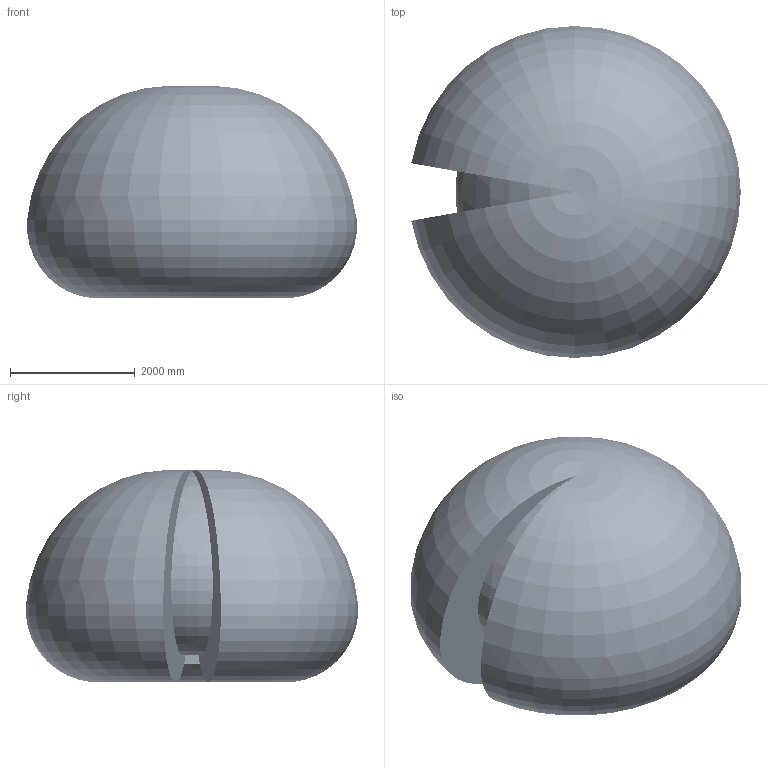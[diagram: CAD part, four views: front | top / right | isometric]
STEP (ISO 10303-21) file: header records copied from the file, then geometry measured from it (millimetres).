
FILE_DESCRIPTION (( 'STEP AP214' ), '1' );
FILE_NAME ('IRB6710_210kg-265_OC_00_ASM_CAD.STEP', '2023-05-10T09:21:43', ( '' ), ( '' ), 'SwSTEP 2.0', 'SolidWorks 2020', '' );
FILE_SCHEMA (( 'AUTOMOTIVE_DESIGN' ));
Length unit declared in the file: millimetre
Products named in the file (14): IRB6710_210kg-265_OC_00_LINK05_CAD; IRB6710_210kg-265_OC_00_Working-space; IRB6710_210kg-265_OC_00_ROD_CAD; IRB6710_210kg-265_OC_00_LINK01m_CABLE; IRB6710_210kg-265_OC_00_LINK02m_CABLE; IRB6710_210kg-265_OC_00_BASE_CAD; IRB6710_210kg-265_OC_00_LINK03_CAD; IRB6710_210kg-265_OC_00_CYL_CAD; IRB6710_210kg-265_OC_00_LINK01_CAD; IRB6710_210kg-265_OC_00_LINK02_CAD; IRB6710_210kg-265_OC_00_ASM_CAD; IRB6710_210kg-265_OC_00_LINK06_CAD; IRB6710_210kg-265_OC_00_LINK03m_CABLE; IRB6710_210kg-265_OC_00_LINK04_CAD
Assembly tree (13 placements, depth 2):
  IRB6710_210kg-265_OC_00_ASM_CAD
    IRB6710_210kg-265_OC_00_BASE_CAD
    IRB6710_210kg-265_OC_00_CYL_CAD
    IRB6710_210kg-265_OC_00_LINK01_CAD
    IRB6710_210kg-265_OC_00_LINK02_CAD
    IRB6710_210kg-265_OC_00_LINK03_CAD
    IRB6710_210kg-265_OC_00_ROD_CAD
    IRB6710_210kg-265_OC_00_LINK04_CAD
    IRB6710_210kg-265_OC_00_LINK05_CAD
    IRB6710_210kg-265_OC_00_LINK06_CAD
    IRB6710_210kg-265_OC_00_LINK01m_CABLE
    IRB6710_210kg-265_OC_00_LINK02m_CABLE
    IRB6710_210kg-265_OC_00_LINK03m_CABLE
    IRB6710_210kg-265_OC_00_Working-space
Bounding box: 5271.55 x 5311.9 x 3396.39 mm (x, y, z)
Volume: 50202592628.8 mm3; surface area: 99922499.4 mm2
Topology: 14 solids, 26 shells, 7380 faces, 18749 edges, 11920 vertices
Faces by surface type: plane 3370, cylinder 1921, cone 1242, bspline 518, torus 285, sphere 44
Entity records: 347347 total; most frequent: CARTESIAN_POINT 151906, ORIENTED_EDGE 37150, DIRECTION 33804, EDGE_CURVE 18575, AXIS2_PLACEMENT_3D 12455, VERTEX_POINT 11918, LINE 8894, VECTOR 8894
